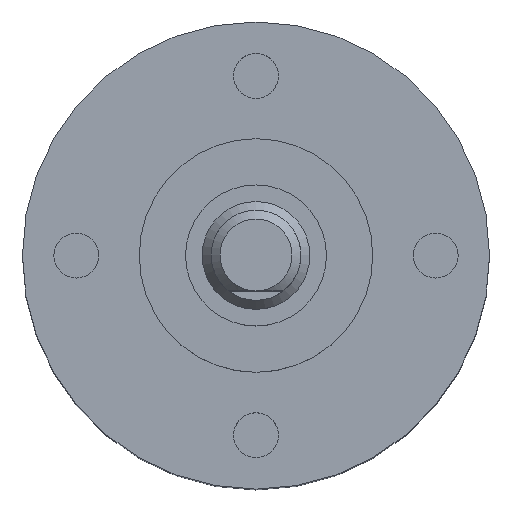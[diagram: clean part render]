
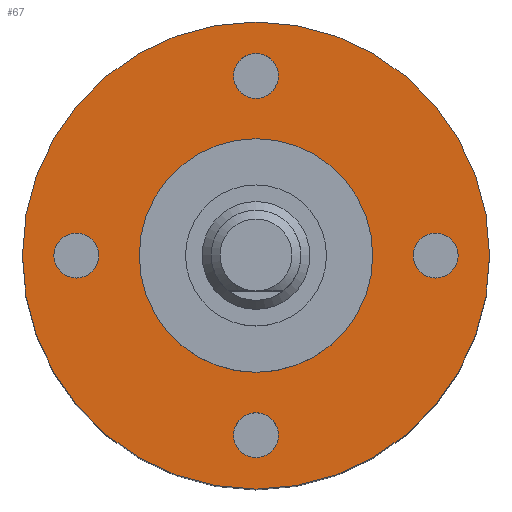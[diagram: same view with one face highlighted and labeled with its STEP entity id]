
A CAD part, top view. The second image highlights one B-rep face of the part: STEP entity #67.
In plain terms, the highlighted planar face has unit normal (0, 0, 1).
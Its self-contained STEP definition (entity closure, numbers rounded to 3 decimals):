
#34=PLANE('',#500);
#67=ADVANCED_FACE('',(#124,#125,#126,#127,#128,#129),#34,.T.);
#124=FACE_BOUND('',#179,.T.);
#125=FACE_BOUND('',#180,.T.);
#126=FACE_BOUND('',#181,.T.);
#127=FACE_BOUND('',#182,.T.);
#128=FACE_BOUND('',#183,.T.);
#129=FACE_BOUND('',#184,.T.);
#179=EDGE_LOOP('',(#248));
#180=EDGE_LOOP('',(#249));
#181=EDGE_LOOP('',(#250));
#182=EDGE_LOOP('',(#251));
#183=EDGE_LOOP('',(#252));
#184=EDGE_LOOP('',(#253));
#248=ORIENTED_EDGE('',*,*,#354,.T.);
#249=ORIENTED_EDGE('',*,*,#355,.T.);
#250=ORIENTED_EDGE('',*,*,#356,.T.);
#251=ORIENTED_EDGE('',*,*,#357,.T.);
#252=ORIENTED_EDGE('',*,*,#358,.F.);
#253=ORIENTED_EDGE('',*,*,#352,.T.);
#316=VERTEX_POINT('',#744);
#318=VERTEX_POINT('',#750);
#319=VERTEX_POINT('',#752);
#320=VERTEX_POINT('',#754);
#321=VERTEX_POINT('',#756);
#322=VERTEX_POINT('',#758);
#352=EDGE_CURVE('',#316,#316,#415,.T.);
#354=EDGE_CURVE('',#318,#318,#417,.T.);
#355=EDGE_CURVE('',#319,#319,#418,.T.);
#356=EDGE_CURVE('',#320,#320,#419,.T.);
#357=EDGE_CURVE('',#321,#321,#420,.T.);
#358=EDGE_CURVE('',#322,#322,#421,.T.);
#415=CIRCLE('',#491,13.);
#417=CIRCLE('',#495,1.25);
#418=CIRCLE('',#496,1.25);
#419=CIRCLE('',#497,1.25);
#420=CIRCLE('',#498,1.25);
#421=CIRCLE('',#499,6.5);
#491=AXIS2_PLACEMENT_3D('',#743,#588,#589);
#495=AXIS2_PLACEMENT_3D('',#749,#596,#597);
#496=AXIS2_PLACEMENT_3D('',#751,#598,#599);
#497=AXIS2_PLACEMENT_3D('',#753,#600,#601);
#498=AXIS2_PLACEMENT_3D('',#755,#602,#603);
#499=AXIS2_PLACEMENT_3D('',#757,#604,#605);
#500=AXIS2_PLACEMENT_3D('',#759,#606,#607);
#588=DIRECTION('',(0.,0.,1.));
#589=DIRECTION('',(1.,0.,0.));
#596=DIRECTION('',(0.,0.,-1.));
#597=DIRECTION('',(0.,-1.,0.));
#598=DIRECTION('',(0.,0.,-1.));
#599=DIRECTION('',(1.,0.,0.));
#600=DIRECTION('',(0.,0.,-1.));
#601=DIRECTION('',(0.,1.,0.));
#602=DIRECTION('',(0.,0.,-1.));
#603=DIRECTION('',(-1.,0.,0.));
#604=DIRECTION('',(0.,0.,1.));
#605=DIRECTION('',(1.,0.,0.));
#606=DIRECTION('',(0.,0.,1.));
#607=DIRECTION('',(1.,0.,0.));
#743=CARTESIAN_POINT('',(0.,0.,28.4));
#744=CARTESIAN_POINT('',(13.,0.,28.4));
#749=CARTESIAN_POINT('',(-10.,0.,28.4));
#750=CARTESIAN_POINT('',(-10.,-1.25,28.4));
#751=CARTESIAN_POINT('',(0.,-10.,28.4));
#752=CARTESIAN_POINT('',(1.25,-10.,28.4));
#753=CARTESIAN_POINT('',(10.,0.,28.4));
#754=CARTESIAN_POINT('',(10.,1.25,28.4));
#755=CARTESIAN_POINT('',(0.,10.,28.4));
#756=CARTESIAN_POINT('',(-1.25,10.,28.4));
#757=CARTESIAN_POINT('',(0.,0.,28.4));
#758=CARTESIAN_POINT('',(6.5,0.,28.4));
#759=CARTESIAN_POINT('',(0.,0.,28.4));
